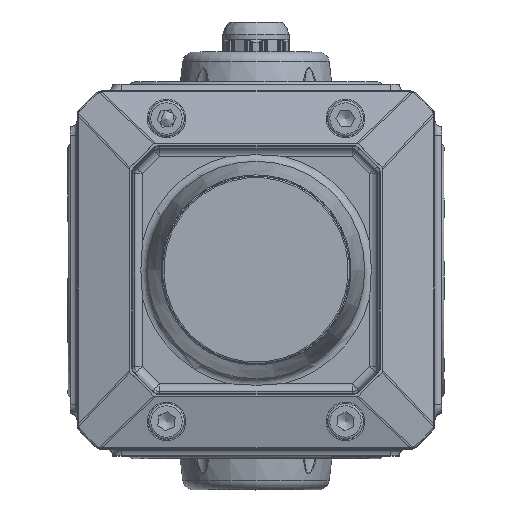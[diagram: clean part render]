
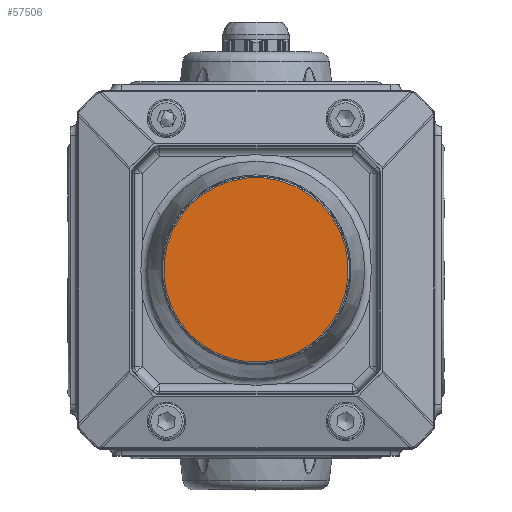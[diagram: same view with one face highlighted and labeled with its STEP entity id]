
A CAD part, top view. The second image highlights one B-rep face of the part: STEP entity #57506.
In plain terms, the highlighted planar face has unit normal (0, 0, 1).
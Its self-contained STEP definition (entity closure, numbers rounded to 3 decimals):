
#2300=PLANE('',#63985);
#11424=CIRCLE('',#63986,33.5);
#15889=FACE_OUTER_BOUND('',#19454,.T.);
#19454=EDGE_LOOP('',(#49447));
#25759=VERTEX_POINT('',#149398);
#33721=EDGE_CURVE('',#25759,#25759,#11424,.T.);
#49447=ORIENTED_EDGE('',*,*,#33721,.T.);
#57506=ADVANCED_FACE('',(#15889),#2300,.T.);
#63985=AXIS2_PLACEMENT_3D('',#149397,#79450,#79451);
#63986=AXIS2_PLACEMENT_3D('',#149399,#79452,#79453);
#79450=DIRECTION('center_axis',(0.,0.,
1.));
#79451=DIRECTION('ref_axis',(0.088,-0.996,0.));
#79452=DIRECTION('center_axis',(0.,0.,
1.));
#79453=DIRECTION('ref_axis',(0.088,-0.996,0.));
#149397=CARTESIAN_POINT('Origin',(1.48,-16.685,145.8));
#149398=CARTESIAN_POINT('',(-2.959,33.369,145.8));
#149399=CARTESIAN_POINT('Origin',(0.,0.,
145.8));
